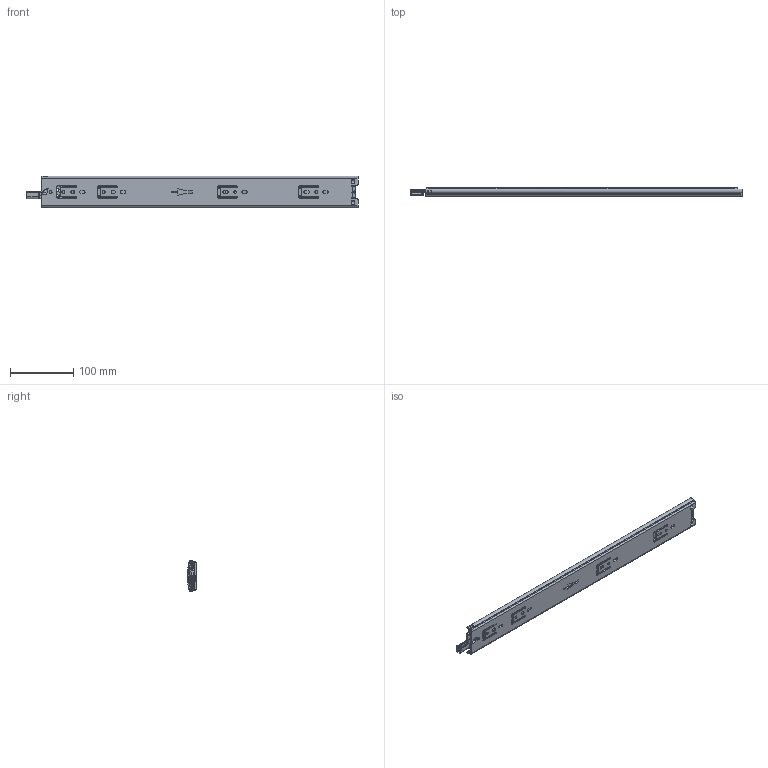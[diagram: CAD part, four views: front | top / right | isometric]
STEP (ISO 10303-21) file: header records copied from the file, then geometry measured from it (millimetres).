
FILE_DESCRIPTION((''),'2;1');
FILE_NAME('KP-50-3S-20ZUO_ASM','2023-05-05T',('jishu015'),(''),'PRO/ENGINEER BY PARAMETRIC TECHNOLOGY CORPORATION, 2010280','PRO/ENGINEER BY PARAMETRIC TECHNOLOGY CORPORATION, 2010280','');
FILE_SCHEMA(('CONFIG_CONTROL_DESIGN'));
Length unit declared in the file: millimetre
Products named in the file (19): KP-50-01WAIKE18_______________; KP-50-01ZHONGGIU20_; ZHONGGUIPEIJIAN____________; 50BAIKOU_________; KP-53-01ZHONGGUI-1854___ASM; KP-50-01ZHUJIA-16GE43__; 4-76GANZHU_______________; KP-50-01ZHUJIA-16GE23___ASM; KP-50-01NEIGUI18_______________; YH1050BANJI____________; PIAN____________; JIAO____________; DAOPIAN_________; ZOU-1_________; KP53-0NEIGUI________________ASM; 50ZHUTIAO_______________; 50ZHUTIAO________________ASM; CHANGGUI1045WEIJIAO222; KP-50-3S-20ZUO_ASM
Assembly tree (62 placements, depth 3):
  KP-50-3S-20ZUO_ASM
    KP-50-01WAIKE18_______________
    KP-53-01ZHONGGUI-1854___ASM
      KP-50-01ZHONGGIU20_
      ZHONGGUIPEIJIAN____________
      50BAIKOU_________
    KP-50-01ZHUJIA-16GE23___ASM
      KP-50-01ZHUJIA-16GE43__
      4-76GANZHU_______________  x36
    KP53-0NEIGUI________________ASM
      KP-50-01NEIGUI18_______________
      YH1050BANJI____________
      PIAN____________
      JIAO____________
      DAOPIAN_________
      ZOU-1_________
    50ZHUTIAO________________ASM  x2
      50ZHUTIAO_______________
      4-76GANZHU_______________
    CHANGGUI1045WEIJIAO222
Bounding box: 523.8 x 13 x 50 mm (x, y, z)
Volume: 149188.3 mm3; surface area: 197500.6 mm2
Topology: 66 solids, 67 shells, 1831 faces, 5306 edges, 3284 vertices
Faces by surface type: cylinder 790, plane 744, bspline 129, sphere 106, torus 25, extrusion 23, cone 14
Entity records: 61618 total; most frequent: CARTESIAN_POINT 16358, ORIENTED_EDGE 9652, DIRECTION 9266, EDGE_CURVE 4828, AXIS2_PLACEMENT_3D 3154, VERTEX_POINT 3070, VECTOR 2958, LINE 2935
